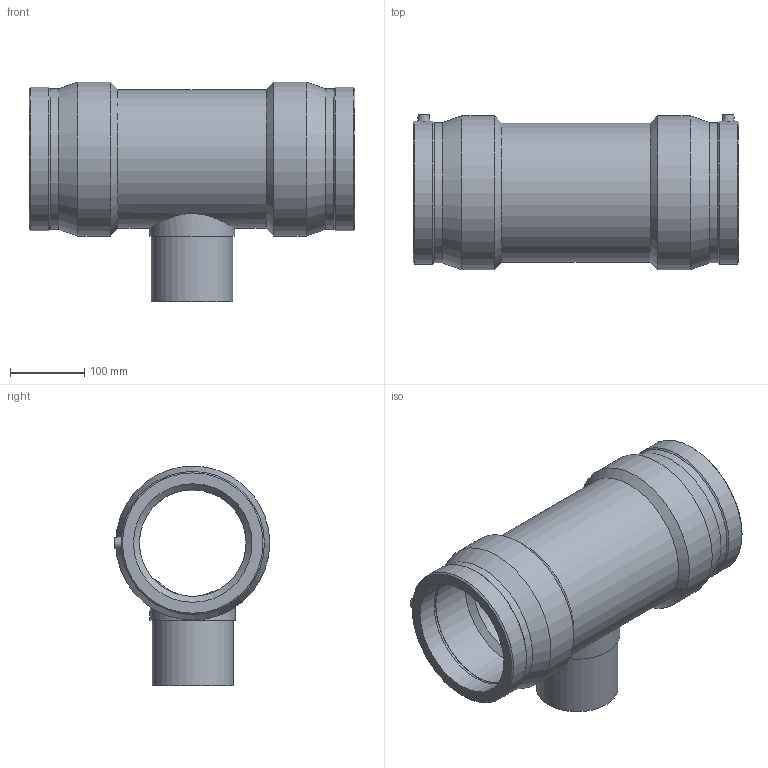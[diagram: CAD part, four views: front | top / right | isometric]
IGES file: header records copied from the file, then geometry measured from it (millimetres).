
Global section: file name: 491404160110.ipt; native system: Autodesk Inventor 2015; preprocessor: unknown; author: KIM; date: 20171106.093855; units: millimetre
Bounding box: 440 x 210 x 297 mm (x, y, z)
Volume: 5434502.5 mm3; surface area: 567619 mm2
Topology: 1 solids, 1 shells, 45 faces, 101 edges, 66 vertices
Faces by surface type: plane 12, revolution 12, cylinder 11, cone 10
Full cylindrical faces by diameter (mm): 4 x2, 110 x1, 115.5 x1, 187.2 x1, 189.571 x2, 193.44 x2, 208 x2
